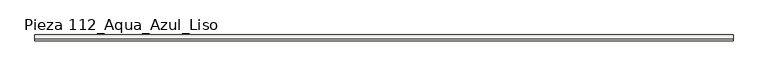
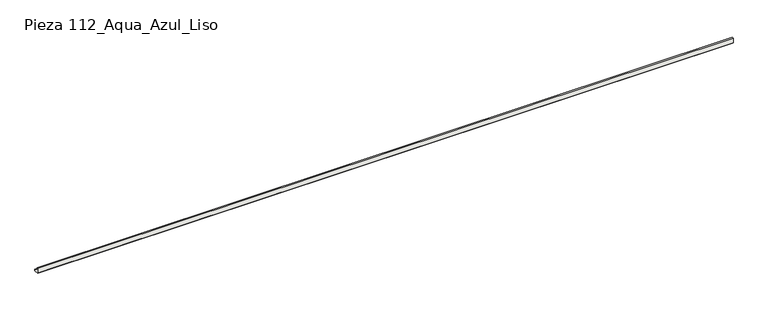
"""IFC4 building model written with IfcOpenShell, lengths in millimetres: slab geometry, ROSA GRES_112 : Pieza 112_Aqua_Azul_Liso."""

from ifc_helpers import new_model, si_unit, point, frame, frame_2d, origin, place, context, project, spatial, polyline, circle_curve, trimmed, segment, composite_curve, outline, extrude, source, transform, mapped, element, save


def pieza_112_aqua_azul_liso_541d37f0(model_context):
    return source(origin(), model_context, "Body", "SweptSolid", [
        extrude(outline(composite_curve([segment(polyline([(0.0, 8.7114978), (0.0, 40.0), (9.9734114, 40.0)]), True, "CONTINUOUS"), segment(trimmed(circle_curve(frame_2d((39.9955547, 39.9955547)), 30.0221435), [point((9.9734114, 40.0))], [point((40.0, 9.9734114))], True, "CARTESIAN"), True, "CONTINUOUS"), segment(polyline([(40.0, 9.9734114), (40.0, 0.0), (8.7114978, 0.0), (0.0, 8.7114978)]), True, "CONTINUOUS")], self_intersect=False)), frame((0.0, 0.0, 0.0), z_axis=(1.0, 0.0, 0.0), x_axis=(0.0, 1.0, 0.0)), (0.0, 0.0, 1.0), 4731.3967868),
    ])


if __name__ == "__main__":
    model = new_model("IFC4")
    model_context = context("Model", 3, world=origin())
    ifc_project = project(units=[si_unit("LENGTHUNIT", "METRE", prefix="MILLI")], contexts=[model_context])
    site = spatial("IfcSite", under=ifc_project)
    building = spatial("IfcBuilding", under=site)
    placement = place(None, origin())
    pieza_112_aqua_azul_liso_shape = pieza_112_aqua_azul_liso_541d37f0(model_context)
    element("IfcSlab", 1, ObjectType="ROSA GRES_112 : Pieza 112_Aqua_Azul_Liso", at=placement, inside=building, context=model_context, shape_type="MappedRepresentation", body=[
        mapped(pieza_112_aqua_azul_liso_shape, transform((0.0, 0.0, 0.0), x_axis=(1.0, 0.0, 0.0), y_axis=(0.0, 1.0, 0.0), z_axis=(0.0, 0.0, 1.0))),
    ])
    save(model, "model.ifc")
